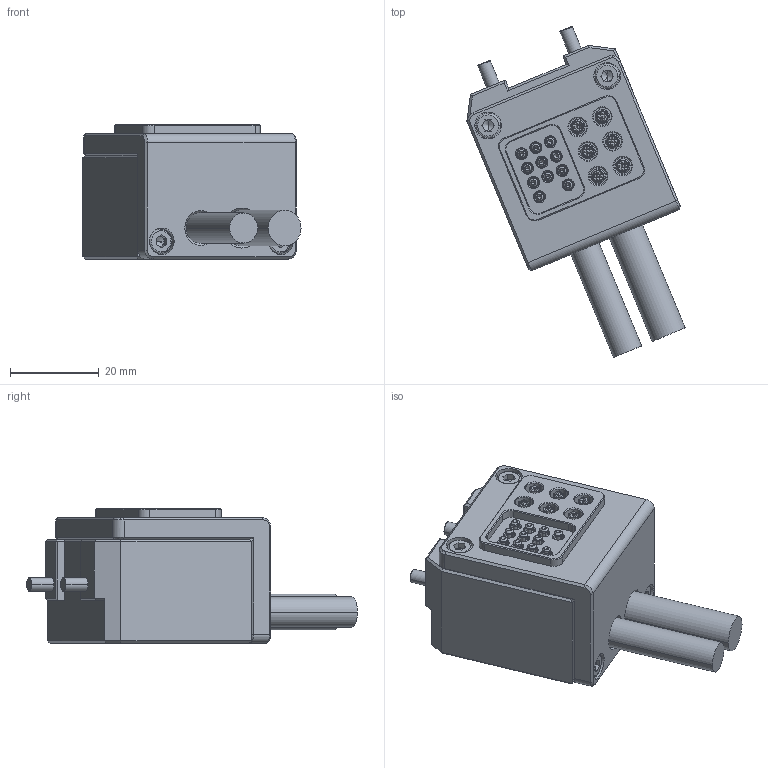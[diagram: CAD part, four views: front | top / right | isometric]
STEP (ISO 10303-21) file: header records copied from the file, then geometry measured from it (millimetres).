
FILE_DESCRIPTION (( 'STEP AP203' ), '1' );
FILE_NAME ('QCSM-RJ45~5M-06R.STEP', '2024-01-11T01:14:13', ( '' ), ( '' ), 'SwSTEP 2.0', 'SolidWorks 2018', '' );
FILE_SCHEMA (( 'CONFIG_CONTROL_DESIGN' ));
Length unit declared in the file: millimetre
Products named in the file (1): QCSM-RJ45~5M-06R
Bounding box: 49.08 x 74.46 x 30.2 mm (x, y, z)
Volume: 43914.1 mm3; surface area: 10552.7 mm2
Topology: 1 solids, 1 shells, 755 faces, 1724 edges, 1035 vertices
Faces by surface type: plane 425, cylinder 182, cone 140, bspline 8
Entity records: 20940 total; most frequent: CARTESIAN_POINT 4292, DIRECTION 3533, ORIENTED_EDGE 3388, EDGE_CURVE 1694, AXIS2_PLACEMENT_3D 1322, VERTEX_POINT 1035, VECTOR 889, LINE 889
